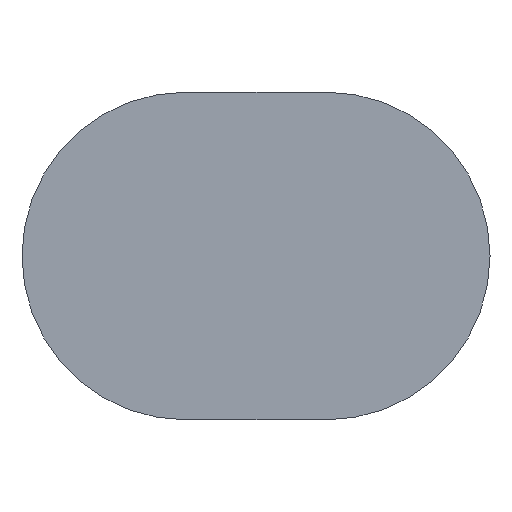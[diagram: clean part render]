
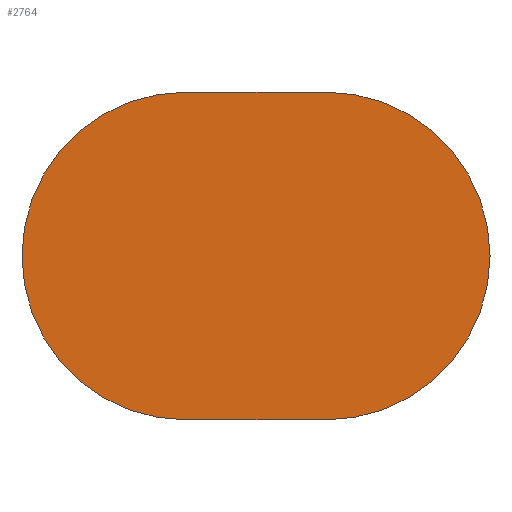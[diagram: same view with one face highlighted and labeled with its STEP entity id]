
A CAD part, left-side view. The second image highlights one B-rep face of the part: STEP entity #2764.
In plain terms, the highlighted planar face has unit normal (-1, 0, 0).
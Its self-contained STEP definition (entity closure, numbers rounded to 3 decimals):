
#1706 = PLANE('',#1707);
#1707 = AXIS2_PLACEMENT_3D('',#1708,#1709,#1710);
#1708 = CARTESIAN_POINT('',(42.,21.01,7.));
#1709 = DIRECTION('',(0.,0.,1.));
#1710 = DIRECTION('',(0.,-1.,0.));
#1844 = CYLINDRICAL_SURFACE('',#1845,6.99);
#1845 = AXIS2_PLACEMENT_3D('',#1846,#1847,#1848);
#1846 = CARTESIAN_POINT('',(42.,14.99,0.01));
#1847 = DIRECTION('',(1.,0.,0.));
#1848 = DIRECTION('',(0.,0.,1.));
#1926 = PLANE('',#1927);
#1927 = AXIS2_PLACEMENT_3D('',#1928,#1929,#1930);
#1928 = CARTESIAN_POINT('',(42.,8.,0.01));
#1929 = DIRECTION('',(0.,-1.,0.));
#1930 = DIRECTION('',(0.,0.,-1.));
#2014 = CYLINDRICAL_SURFACE('',#2015,6.99);
#2015 = AXIS2_PLACEMENT_3D('',#2016,#2017,#2018);
#2016 = CARTESIAN_POINT('',(42.,14.99,-0.01));
#2017 = DIRECTION('',(1.,0.,0.));
#2018 = DIRECTION('',(0.,-1.,0.));
#2096 = PLANE('',#2097);
#2097 = AXIS2_PLACEMENT_3D('',#2098,#2099,#2100);
#2098 = CARTESIAN_POINT('',(42.,14.99,-7.));
#2099 = DIRECTION('',(0.,0.,-1.));
#2100 = DIRECTION('',(0.,1.,0.));
#2184 = CYLINDRICAL_SURFACE('',#2185,6.99);
#2185 = AXIS2_PLACEMENT_3D('',#2186,#2187,#2188);
#2186 = CARTESIAN_POINT('',(42.,21.01,-0.01));
#2187 = DIRECTION('',(1.,0.,0.));
#2188 = DIRECTION('',(0.,0.,-1.));
#2261 = PLANE('',#2262);
#2262 = AXIS2_PLACEMENT_3D('',#2263,#2264,#2265);
#2263 = CARTESIAN_POINT('',(42.,28.,-0.01));
#2264 = DIRECTION('',(0.,1.,0.));
#2265 = DIRECTION('',(0.,-0.,1.));
#2319 = CYLINDRICAL_SURFACE('',#2320,6.99);
#2320 = AXIS2_PLACEMENT_3D('',#2321,#2322,#2323);
#2321 = CARTESIAN_POINT('',(42.,21.01,0.01));
#2322 = DIRECTION('',(1.,0.,0.));
#2323 = DIRECTION('',(-0.,1.,0.));
#2336 = VERTEX_POINT('',#2337);
#2337 = CARTESIAN_POINT('',(42.,8.,-0.01));
#2358 = EDGE_CURVE('',#2336,#2359,#2361,.T.);
#2359 = VERTEX_POINT('',#2360);
#2360 = CARTESIAN_POINT('',(42.,14.99,-7.));
#2361 = SURFACE_CURVE('',#2362,(#2367,#2374),.PCURVE_S1.);
#2362 = CIRCLE('',#2363,6.99);
#2363 = AXIS2_PLACEMENT_3D('',#2364,#2365,#2366);
#2364 = CARTESIAN_POINT('',(42.,14.99,-0.01));
#2365 = DIRECTION('',(1.,0.,0.));
#2366 = DIRECTION('',(0.,-1.,0.));
#2367 = PCURVE('',#2014,#2368);
#2368 = DEFINITIONAL_REPRESENTATION('',(#2369),#2373);
#2369 = LINE('',#2370,#2371);
#2370 = CARTESIAN_POINT('',(0.,0.));
#2371 = VECTOR('',#2372,1.);
#2372 = DIRECTION('',(1.,0.));
#2373 = ( GEOMETRIC_REPRESENTATION_CONTEXT(2) 
PARAMETRIC_REPRESENTATION_CONTEXT() REPRESENTATION_CONTEXT('2D SPACE',''
  ) );
#2374 = PCURVE('',#2375,#2380);
#2375 = PLANE('',#2376);
#2376 = AXIS2_PLACEMENT_3D('',#2377,#2378,#2379);
#2377 = CARTESIAN_POINT('',(42.,18.,0.));
#2378 = DIRECTION('',(1.,0.,0.));
#2379 = DIRECTION('',(0.,0.,-1.));
#2380 = DEFINITIONAL_REPRESENTATION('',(#2381),#2385);
#2381 = CIRCLE('',#2382,6.99);
#2382 = AXIS2_PLACEMENT_2D('',#2383,#2384);
#2383 = CARTESIAN_POINT('',(0.01,-3.01));
#2384 = DIRECTION('',(0.,-1.));
#2385 = ( GEOMETRIC_REPRESENTATION_CONTEXT(2) 
PARAMETRIC_REPRESENTATION_CONTEXT() REPRESENTATION_CONTEXT('2D SPACE',''
  ) );
#2413 = VERTEX_POINT('',#2414);
#2414 = CARTESIAN_POINT('',(42.,8.,0.01));
#2435 = EDGE_CURVE('',#2413,#2336,#2436,.T.);
#2436 = SURFACE_CURVE('',#2437,(#2441,#2448),.PCURVE_S1.);
#2437 = LINE('',#2438,#2439);
#2438 = CARTESIAN_POINT('',(42.,8.,0.01));
#2439 = VECTOR('',#2440,1.);
#2440 = DIRECTION('',(0.,0.,-1.));
#2441 = PCURVE('',#1926,#2442);
#2442 = DEFINITIONAL_REPRESENTATION('',(#2443),#2447);
#2443 = LINE('',#2444,#2445);
#2444 = CARTESIAN_POINT('',(0.,0.));
#2445 = VECTOR('',#2446,1.);
#2446 = DIRECTION('',(1.,0.));
#2447 = ( GEOMETRIC_REPRESENTATION_CONTEXT(2) 
PARAMETRIC_REPRESENTATION_CONTEXT() REPRESENTATION_CONTEXT('2D SPACE',''
  ) );
#2448 = PCURVE('',#2375,#2449);
#2449 = DEFINITIONAL_REPRESENTATION('',(#2450),#2454);
#2450 = LINE('',#2451,#2452);
#2451 = CARTESIAN_POINT('',(-0.01,-10.));
#2452 = VECTOR('',#2453,1.);
#2453 = DIRECTION('',(1.,0.));
#2454 = ( GEOMETRIC_REPRESENTATION_CONTEXT(2) 
PARAMETRIC_REPRESENTATION_CONTEXT() REPRESENTATION_CONTEXT('2D SPACE',''
  ) );
#2462 = VERTEX_POINT('',#2463);
#2463 = CARTESIAN_POINT('',(42.,14.99,7.));
#2484 = EDGE_CURVE('',#2462,#2413,#2485,.T.);
#2485 = SURFACE_CURVE('',#2486,(#2491,#2498),.PCURVE_S1.);
#2486 = CIRCLE('',#2487,6.99);
#2487 = AXIS2_PLACEMENT_3D('',#2488,#2489,#2490);
#2488 = CARTESIAN_POINT('',(42.,14.99,0.01));
#2489 = DIRECTION('',(1.,0.,-0.));
#2490 = DIRECTION('',(0.,0.,1.));
#2491 = PCURVE('',#1844,#2492);
#2492 = DEFINITIONAL_REPRESENTATION('',(#2493),#2497);
#2493 = LINE('',#2494,#2495);
#2494 = CARTESIAN_POINT('',(0.,0.));
#2495 = VECTOR('',#2496,1.);
#2496 = DIRECTION('',(1.,0.));
#2497 = ( GEOMETRIC_REPRESENTATION_CONTEXT(2) 
PARAMETRIC_REPRESENTATION_CONTEXT() REPRESENTATION_CONTEXT('2D SPACE',''
  ) );
#2498 = PCURVE('',#2375,#2499);
#2499 = DEFINITIONAL_REPRESENTATION('',(#2500),#2504);
#2500 = CIRCLE('',#2501,6.99);
#2501 = AXIS2_PLACEMENT_2D('',#2502,#2503);
#2502 = CARTESIAN_POINT('',(-0.01,-3.01));
#2503 = DIRECTION('',(-1.,0.));
#2504 = ( GEOMETRIC_REPRESENTATION_CONTEXT(2) 
PARAMETRIC_REPRESENTATION_CONTEXT() REPRESENTATION_CONTEXT('2D SPACE',''
  ) );
#2512 = VERTEX_POINT('',#2513);
#2513 = CARTESIAN_POINT('',(42.,21.01,7.));
#2534 = EDGE_CURVE('',#2512,#2462,#2535,.T.);
#2535 = SURFACE_CURVE('',#2536,(#2540,#2547),.PCURVE_S1.);
#2536 = LINE('',#2537,#2538);
#2537 = CARTESIAN_POINT('',(42.,21.01,7.));
#2538 = VECTOR('',#2539,1.);
#2539 = DIRECTION('',(0.,-1.,0.));
#2540 = PCURVE('',#1706,#2541);
#2541 = DEFINITIONAL_REPRESENTATION('',(#2542),#2546);
#2542 = LINE('',#2543,#2544);
#2543 = CARTESIAN_POINT('',(0.,0.));
#2544 = VECTOR('',#2545,1.);
#2545 = DIRECTION('',(1.,0.));
#2546 = ( GEOMETRIC_REPRESENTATION_CONTEXT(2) 
PARAMETRIC_REPRESENTATION_CONTEXT() REPRESENTATION_CONTEXT('2D SPACE',''
  ) );
#2547 = PCURVE('',#2375,#2548);
#2548 = DEFINITIONAL_REPRESENTATION('',(#2549),#2553);
#2549 = LINE('',#2550,#2551);
#2550 = CARTESIAN_POINT('',(-7.,3.01));
#2551 = VECTOR('',#2552,1.);
#2552 = DIRECTION('',(0.,-1.));
#2553 = ( GEOMETRIC_REPRESENTATION_CONTEXT(2) 
PARAMETRIC_REPRESENTATION_CONTEXT() REPRESENTATION_CONTEXT('2D SPACE',''
  ) );
#2594 = VERTEX_POINT('',#2595);
#2595 = CARTESIAN_POINT('',(42.,28.,0.01));
#2616 = EDGE_CURVE('',#2594,#2512,#2617,.T.);
#2617 = SURFACE_CURVE('',#2618,(#2623,#2630),.PCURVE_S1.);
#2618 = CIRCLE('',#2619,6.99);
#2619 = AXIS2_PLACEMENT_3D('',#2620,#2621,#2622);
#2620 = CARTESIAN_POINT('',(42.,21.01,0.01));
#2621 = DIRECTION('',(1.,0.,0.));
#2622 = DIRECTION('',(-0.,1.,0.));
#2623 = PCURVE('',#2319,#2624);
#2624 = DEFINITIONAL_REPRESENTATION('',(#2625),#2629);
#2625 = LINE('',#2626,#2627);
#2626 = CARTESIAN_POINT('',(0.,0.));
#2627 = VECTOR('',#2628,1.);
#2628 = DIRECTION('',(1.,0.));
#2629 = ( GEOMETRIC_REPRESENTATION_CONTEXT(2) 
PARAMETRIC_REPRESENTATION_CONTEXT() REPRESENTATION_CONTEXT('2D SPACE',''
  ) );
#2630 = PCURVE('',#2375,#2631);
#2631 = DEFINITIONAL_REPRESENTATION('',(#2632),#2636);
#2632 = CIRCLE('',#2633,6.99);
#2633 = AXIS2_PLACEMENT_2D('',#2634,#2635);
#2634 = CARTESIAN_POINT('',(-0.01,3.01));
#2635 = DIRECTION('',(0.,1.));
#2636 = ( GEOMETRIC_REPRESENTATION_CONTEXT(2) 
PARAMETRIC_REPRESENTATION_CONTEXT() REPRESENTATION_CONTEXT('2D SPACE',''
  ) );
#2644 = VERTEX_POINT('',#2645);
#2645 = CARTESIAN_POINT('',(42.,28.,-0.01));
#2666 = EDGE_CURVE('',#2644,#2594,#2667,.T.);
#2667 = SURFACE_CURVE('',#2668,(#2672,#2679),.PCURVE_S1.);
#2668 = LINE('',#2669,#2670);
#2669 = CARTESIAN_POINT('',(42.,28.,-0.01));
#2670 = VECTOR('',#2671,1.);
#2671 = DIRECTION('',(0.,0.,1.));
#2672 = PCURVE('',#2261,#2673);
#2673 = DEFINITIONAL_REPRESENTATION('',(#2674),#2678);
#2674 = LINE('',#2675,#2676);
#2675 = CARTESIAN_POINT('',(0.,0.));
#2676 = VECTOR('',#2677,1.);
#2677 = DIRECTION('',(1.,0.));
#2678 = ( GEOMETRIC_REPRESENTATION_CONTEXT(2) 
PARAMETRIC_REPRESENTATION_CONTEXT() REPRESENTATION_CONTEXT('2D SPACE',''
  ) );
#2679 = PCURVE('',#2375,#2680);
#2680 = DEFINITIONAL_REPRESENTATION('',(#2681),#2685);
#2681 = LINE('',#2682,#2683);
#2682 = CARTESIAN_POINT('',(0.01,10.));
#2683 = VECTOR('',#2684,1.);
#2684 = DIRECTION('',(-1.,0.));
#2685 = ( GEOMETRIC_REPRESENTATION_CONTEXT(2) 
PARAMETRIC_REPRESENTATION_CONTEXT() REPRESENTATION_CONTEXT('2D SPACE',''
  ) );
#2693 = VERTEX_POINT('',#2694);
#2694 = CARTESIAN_POINT('',(42.,21.01,-7.));
#2715 = EDGE_CURVE('',#2693,#2644,#2716,.T.);
#2716 = SURFACE_CURVE('',#2717,(#2722,#2729),.PCURVE_S1.);
#2717 = CIRCLE('',#2718,6.99);
#2718 = AXIS2_PLACEMENT_3D('',#2719,#2720,#2721);
#2719 = CARTESIAN_POINT('',(42.,21.01,-0.01));
#2720 = DIRECTION('',(1.,0.,0.));
#2721 = DIRECTION('',(0.,0.,-1.));
#2722 = PCURVE('',#2184,#2723);
#2723 = DEFINITIONAL_REPRESENTATION('',(#2724),#2728);
#2724 = LINE('',#2725,#2726);
#2725 = CARTESIAN_POINT('',(0.,0.));
#2726 = VECTOR('',#2727,1.);
#2727 = DIRECTION('',(1.,0.));
#2728 = ( GEOMETRIC_REPRESENTATION_CONTEXT(2) 
PARAMETRIC_REPRESENTATION_CONTEXT() REPRESENTATION_CONTEXT('2D SPACE',''
  ) );
#2729 = PCURVE('',#2375,#2730);
#2730 = DEFINITIONAL_REPRESENTATION('',(#2731),#2735);
#2731 = CIRCLE('',#2732,6.99);
#2732 = AXIS2_PLACEMENT_2D('',#2733,#2734);
#2733 = CARTESIAN_POINT('',(0.01,3.01));
#2734 = DIRECTION('',(1.,0.));
#2735 = ( GEOMETRIC_REPRESENTATION_CONTEXT(2) 
PARAMETRIC_REPRESENTATION_CONTEXT() REPRESENTATION_CONTEXT('2D SPACE',''
  ) );
#2743 = EDGE_CURVE('',#2359,#2693,#2744,.T.);
#2744 = SURFACE_CURVE('',#2745,(#2749,#2756),.PCURVE_S1.);
#2745 = LINE('',#2746,#2747);
#2746 = CARTESIAN_POINT('',(42.,14.99,-7.));
#2747 = VECTOR('',#2748,1.);
#2748 = DIRECTION('',(0.,1.,0.));
#2749 = PCURVE('',#2096,#2750);
#2750 = DEFINITIONAL_REPRESENTATION('',(#2751),#2755);
#2751 = LINE('',#2752,#2753);
#2752 = CARTESIAN_POINT('',(0.,0.));
#2753 = VECTOR('',#2754,1.);
#2754 = DIRECTION('',(1.,0.));
#2755 = ( GEOMETRIC_REPRESENTATION_CONTEXT(2) 
PARAMETRIC_REPRESENTATION_CONTEXT() REPRESENTATION_CONTEXT('2D SPACE',''
  ) );
#2756 = PCURVE('',#2375,#2757);
#2757 = DEFINITIONAL_REPRESENTATION('',(#2758),#2762);
#2758 = LINE('',#2759,#2760);
#2759 = CARTESIAN_POINT('',(7.,-3.01));
#2760 = VECTOR('',#2761,1.);
#2761 = DIRECTION('',(0.,1.));
#2762 = ( GEOMETRIC_REPRESENTATION_CONTEXT(2) 
PARAMETRIC_REPRESENTATION_CONTEXT() REPRESENTATION_CONTEXT('2D SPACE',''
  ) );
#2764 = ADVANCED_FACE('',(#2765),#2375,.F.);
#2765 = FACE_BOUND('',#2766,.T.);
#2766 = EDGE_LOOP('',(#2767,#2768,#2769,#2770,#2771,#2772,#2773,#2774));
#2767 = ORIENTED_EDGE('',*,*,#2484,.F.);
#2768 = ORIENTED_EDGE('',*,*,#2534,.F.);
#2769 = ORIENTED_EDGE('',*,*,#2616,.F.);
#2770 = ORIENTED_EDGE('',*,*,#2666,.F.);
#2771 = ORIENTED_EDGE('',*,*,#2715,.F.);
#2772 = ORIENTED_EDGE('',*,*,#2743,.F.);
#2773 = ORIENTED_EDGE('',*,*,#2358,.F.);
#2774 = ORIENTED_EDGE('',*,*,#2435,.F.);
